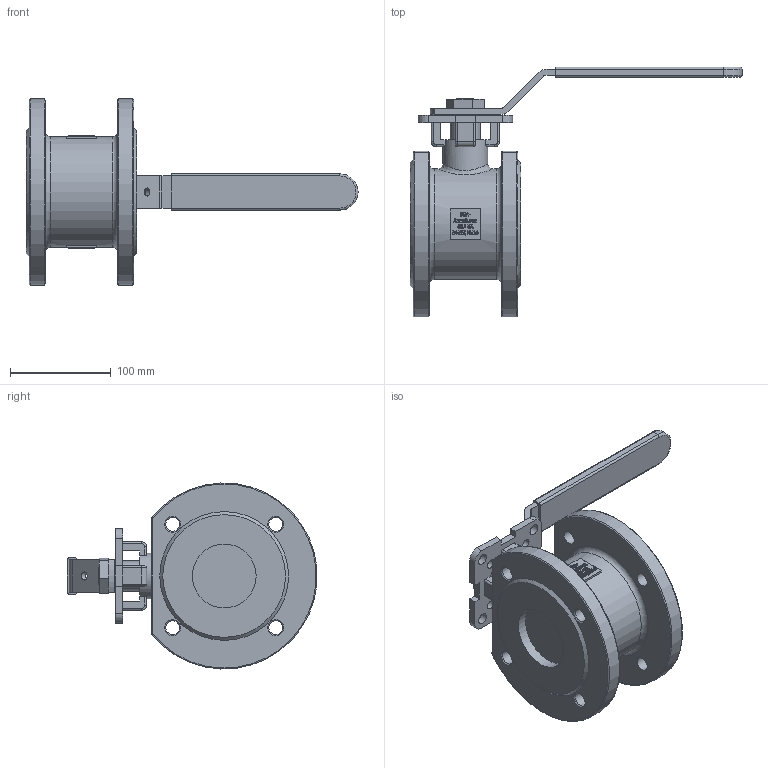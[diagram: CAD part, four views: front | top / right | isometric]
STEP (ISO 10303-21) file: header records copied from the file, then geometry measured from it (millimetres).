
FILE_DESCRIPTION((''),'2;1');
FILE_NAME('K:\Inventor\1 Artikel\12) Flanschen-Kugelhähne\12a) manuell\Econosto\437-VA, 7383\437-VA, DN65\437-VA, DN65, 3D\437-VA, DN65, PN16, HH, 3D.stp','2019-11-07T15:50:47',('claudia'),(''),'Autodesk Inventor 2013','Autodesk Inventor 2013','');
FILE_SCHEMA(('AUTOMOTIVE_DESIGN { 1 0 10303 214 1 1 1 1 }'));
Length unit declared in the file: millimetre
Products named in the file (1): Bauteil9
Bounding box: 330.01 x 248.29 x 184.88 mm (x, y, z)
Volume: 1709161.3 mm3; surface area: 188086.8 mm2
Topology: 1 solids, 1 shells, 1309 faces, 3556 edges, 2355 vertices
Faces by surface type: plane 739, bspline 460, cylinder 76, torus 24, cone 10
Full cylindrical faces by diameter (mm): 8 x2, 9 x4, 11 x4, 13.835 x8, 30 x1, 45 x1, 54 x1, 63.5 x2, 110 x1
Entity records: 45857 total; most frequent: CARTESIAN_POINT 14813, ORIENTED_EDGE 7014, DIRECTION 4489, EDGE_CURVE 3507, VECTOR 2369, LINE 2369, VERTEX_POINT 2343, EDGE_LOOP 1496
